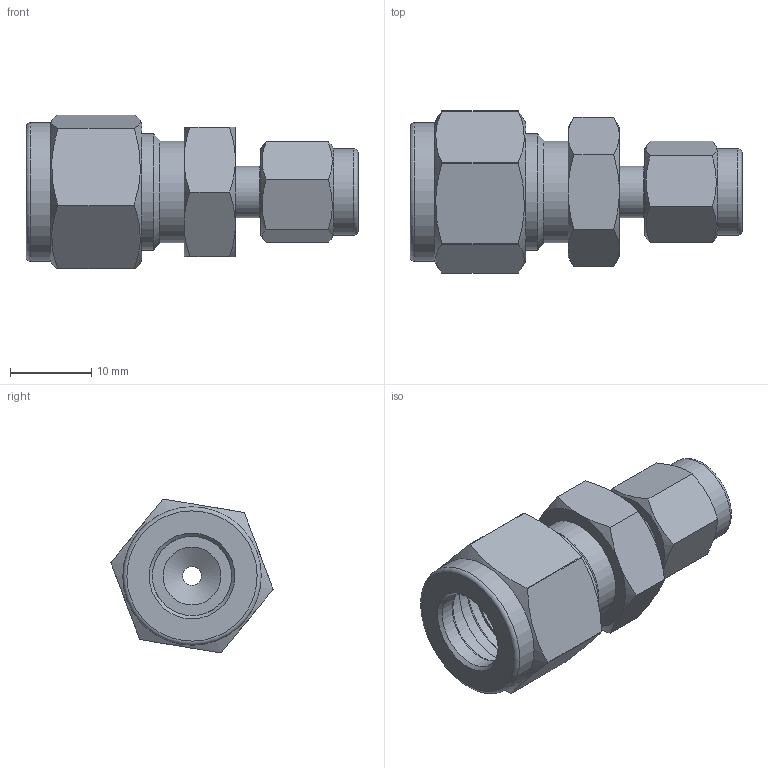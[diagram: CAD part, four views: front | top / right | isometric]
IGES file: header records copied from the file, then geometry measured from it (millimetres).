
Global section: file name: No Iges File Name specified; native system: Autodesk Inventor 2012; preprocessor: AutoDesk Inventor Iges Exporter R2012; author: 硅己绕,,1; organization: 1; date: 20150428.082145; units: millimetre
Bounding box: 40.77 x 19.91 x 18.9 mm (x, y, z)
Volume: 4960.9 mm3; surface area: 4483.6 mm2
Topology: 3 solids, 3 shells, 88 faces, 193 edges, 118 vertices
Faces by surface type: plane 31, revolution 20, cylinder 17, cone 16, torus 4
Full cylindrical faces by diameter (mm): 6.28 x2, 7.94 x1, 10.6 x1, 12.5 x1, 12.55 x1, 14.28 x1, 17 x1
